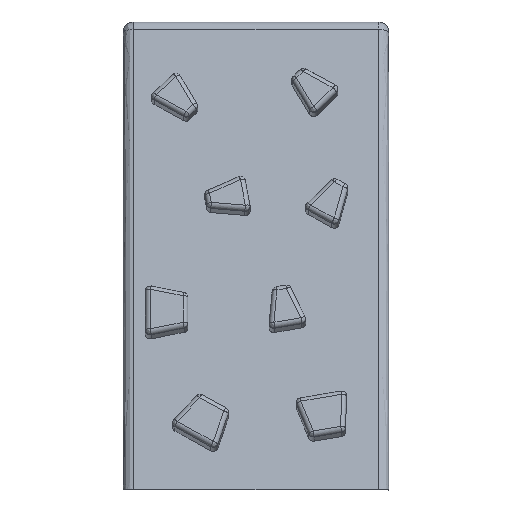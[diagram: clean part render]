
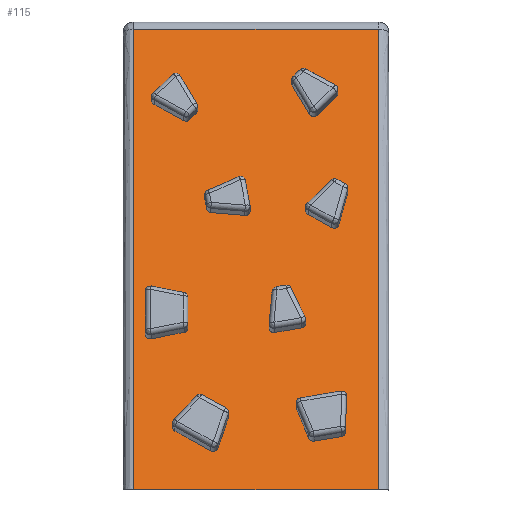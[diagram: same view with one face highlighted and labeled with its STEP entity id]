
A CAD part, front view. The second image highlights one B-rep face of the part: STEP entity #115.
In plain terms, the highlighted planar face has unit normal (0, -0.953, 0.303).
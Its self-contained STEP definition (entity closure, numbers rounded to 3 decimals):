
#115=ADVANCED_FACE('',(#422),#3933,.T.);
#422=FACE_OUTER_BOUND('',#729,.T.);
#729=EDGE_LOOP('',(#1053,#1054,#1055,#1056));
#1053=ORIENTED_EDGE('',*,*,#2302,.F.);
#1054=ORIENTED_EDGE('',*,*,#2298,.F.);
#1055=ORIENTED_EDGE('',*,*,#2294,.F.);
#1056=ORIENTED_EDGE('',*,*,#2305,.T.);
#2294=EDGE_CURVE('',#3550,#3547,#3067,.T.);
#2298=EDGE_CURVE('',#3547,#3553,#3071,.T.);
#2302=EDGE_CURVE('',#3553,#3556,#3075,.T.);
#2305=EDGE_CURVE('',#3550,#3556,#3077,.T.);
#3067=B_SPLINE_CURVE_WITH_KNOTS('',1,(#4804,#4805),.UNSPECIFIED.,.F.,.F.,
(2,2),(0.,908.847),.UNSPECIFIED.);
#3071=B_SPLINE_CURVE_WITH_KNOTS('',1,(#4812,#4813),.UNSPECIFIED.,.F.,.F.,
(2,2),(0.,460.),.UNSPECIFIED.);
#3075=B_SPLINE_CURVE_WITH_KNOTS('',1,(#4867,#4868),.UNSPECIFIED.,.F.,.F.,
(2,2),(0.,908.847),.UNSPECIFIED.);
#3077=B_SPLINE_CURVE_WITH_KNOTS('',1,(#4876,#4877),.UNSPECIFIED.,.F.,.F.,
(2,2),(-1.,0.),.UNSPECIFIED.);
#3547=VERTEX_POINT('',#4732);
#3550=VERTEX_POINT('',#4735);
#3553=VERTEX_POINT('',#4738);
#3556=VERTEX_POINT('',#4741);
#3933=PLANE('',#4260);
#4260=AXIS2_PLACEMENT_3D('',#4672,#4458,$);
#4458=DIRECTION('',(0.,-0.953,0.303));
#4672=CARTESIAN_POINT('',(-230.,-274.434,866.064));
#4732=CARTESIAN_POINT('',(230.,-550.,0.));
#4735=CARTESIAN_POINT('',(230.,-274.434,866.064));
#4738=CARTESIAN_POINT('',(-230.,-550.,0.));
#4741=CARTESIAN_POINT('',(-230.,-274.434,866.064));
#4804=CARTESIAN_POINT('',(230.,-274.434,866.064));
#4805=CARTESIAN_POINT('',(230.,-550.,0.));
#4812=CARTESIAN_POINT('',(230.,-550.,0.));
#4813=CARTESIAN_POINT('',(-230.,-550.,0.));
#4867=CARTESIAN_POINT('',(-230.,-550.,0.));
#4868=CARTESIAN_POINT('',(-230.,-274.434,866.064));
#4876=CARTESIAN_POINT('',(230.,-274.434,866.064));
#4877=CARTESIAN_POINT('',(-230.,-274.434,866.064));
